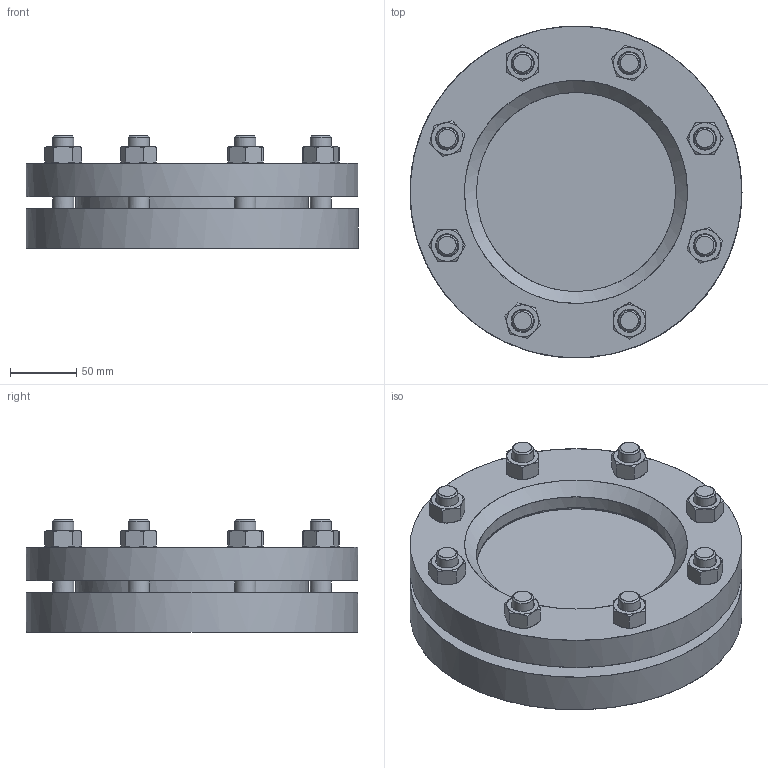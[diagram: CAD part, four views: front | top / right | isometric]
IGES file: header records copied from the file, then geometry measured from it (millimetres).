
Start section: C
Global section: file name: Armatur 28120  DN 125 PN10.igs; native system: By Siemens PLM Incorporated; preprocessor: XPlus GENERIC/IGES 18.0.17; author: Author; organization: Title; date: 20160808.073515; units: millimetre
Bounding box: 250 x 249.73 x 85 mm (x, y, z)
Surface area: 342386.5 mm2 (no closed solid volume)
Topology: 0 solids, 0 shells, 251 faces, 1390 edges, 1382 vertices
Faces by surface type: bspline 251
